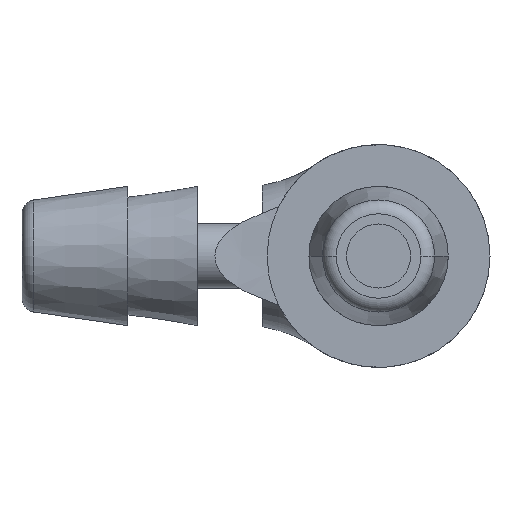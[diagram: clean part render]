
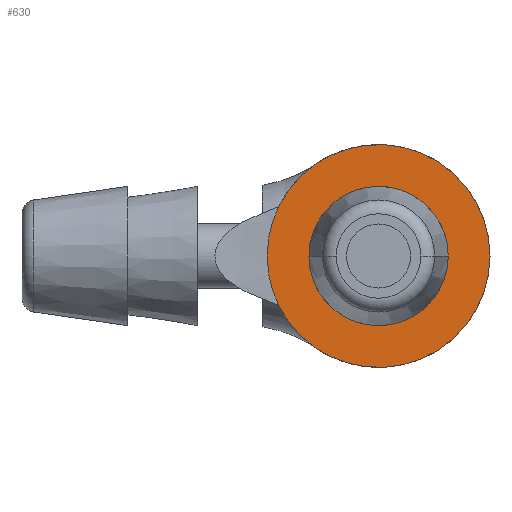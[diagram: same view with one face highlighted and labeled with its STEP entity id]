
A CAD part, left-side view. The second image highlights one B-rep face of the part: STEP entity #630.
In plain terms, the highlighted planar face has unit normal (-1, 0, 0).
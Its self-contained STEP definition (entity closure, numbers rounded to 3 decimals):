
#18=FACE_BOUND('',#162,.T.);
#28=PLANE('',#734);
#72=LINE('',#1235,#91);
#73=LINE('',#1236,#92);
#91=VECTOR('',#916,10.);
#92=VECTOR('',#917,10.);
#121=FACE_OUTER_BOUND('',#161,.T.);
#161=EDGE_LOOP('',(#503,#504,#505,#506,#507));
#162=EDGE_LOOP('',(#508,#509));
#224=CIRCLE('',#714,2.5);
#225=CIRCLE('',#715,2.5);
#229=CIRCLE('',#720,4.);
#230=CIRCLE('',#721,4.);
#239=CIRCLE('',#735,3.998);
#296=VERTEX_POINT('',#1113);
#297=VERTEX_POINT('',#1115);
#300=VERTEX_POINT('',#1124);
#301=VERTEX_POINT('',#1126);
#304=VERTEX_POINT('',#1169);
#312=VERTEX_POINT('',#1232);
#313=VERTEX_POINT('',#1233);
#369=EDGE_CURVE('',#296,#297,#224,.T.);
#370=EDGE_CURVE('',#297,#296,#225,.T.);
#375=EDGE_CURVE('',#300,#301,#229,.T.);
#379=EDGE_CURVE('',#304,#300,#230,.T.);
#392=EDGE_CURVE('',#312,#313,#239,.T.);
#393=EDGE_CURVE('',#301,#312,#72,.T.);
#394=EDGE_CURVE('',#313,#304,#73,.T.);
#503=ORIENTED_EDGE('',*,*,#392,.F.);
#504=ORIENTED_EDGE('',*,*,#393,.F.);
#505=ORIENTED_EDGE('',*,*,#375,.F.);
#506=ORIENTED_EDGE('',*,*,#379,.F.);
#507=ORIENTED_EDGE('',*,*,#394,.F.);
#508=ORIENTED_EDGE('',*,*,#370,.F.);
#509=ORIENTED_EDGE('',*,*,#369,.F.);
#630=ADVANCED_FACE('',(#121,#18),#28,.F.);
#714=AXIS2_PLACEMENT_3D('',#1116,#870,#871);
#715=AXIS2_PLACEMENT_3D('',#1117,#872,#873);
#720=AXIS2_PLACEMENT_3D('',#1127,#883,#884);
#721=AXIS2_PLACEMENT_3D('',#1182,#885,#886);
#734=AXIS2_PLACEMENT_3D('',#1231,#912,#913);
#735=AXIS2_PLACEMENT_3D('',#1234,#914,#915);
#870=DIRECTION('center_axis',(-1.,0.,0.));
#871=DIRECTION('ref_axis',(0.,-1.,0.));
#872=DIRECTION('center_axis',(-1.,0.,0.));
#873=DIRECTION('ref_axis',(0.,-1.,0.));
#883=DIRECTION('center_axis',(1.,0.,0.));
#884=DIRECTION('ref_axis',(0.,0.897,0.443));
#885=DIRECTION('center_axis',(1.,0.,0.));
#886=DIRECTION('ref_axis',(0.,0.897,0.443));
#912=DIRECTION('center_axis',(1.,0.,0.));
#913=DIRECTION('ref_axis',(0.,0.,-1.));
#914=DIRECTION('center_axis',(1.,0.,0.));
#915=DIRECTION('ref_axis',(0.,0.896,-0.443));
#916=DIRECTION('',(0.,-0.911,-0.413));
#917=DIRECTION('',(0.,0.911,-0.413));
#1113=CARTESIAN_POINT('',(0.,-2.439,-0.549));
#1115=CARTESIAN_POINT('',(0.,2.5,0.));
#1116=CARTESIAN_POINT('Origin',(0.,0.,0.));
#1117=CARTESIAN_POINT('Origin',(0.,0.,0.));
#1124=CARTESIAN_POINT('',(0.,-4.,0.));
#1126=CARTESIAN_POINT('',(0.,3.587,-1.771));
#1127=CARTESIAN_POINT('Origin',(0.,0.,0.));
#1169=CARTESIAN_POINT('',(0.,3.587,1.771));
#1182=CARTESIAN_POINT('Origin',(0.,0.,0.));
#1231=CARTESIAN_POINT('Origin',(0.,-4.048,0.));
#1232=CARTESIAN_POINT('',(0.,3.583,-1.772));
#1233=CARTESIAN_POINT('',(0.,3.583,1.772));
#1234=CARTESIAN_POINT('Origin',(0.,0.,0.));
#1235=CARTESIAN_POINT('',(0.,3.587,-1.771));
#1236=CARTESIAN_POINT('',(0.,3.583,1.772));
